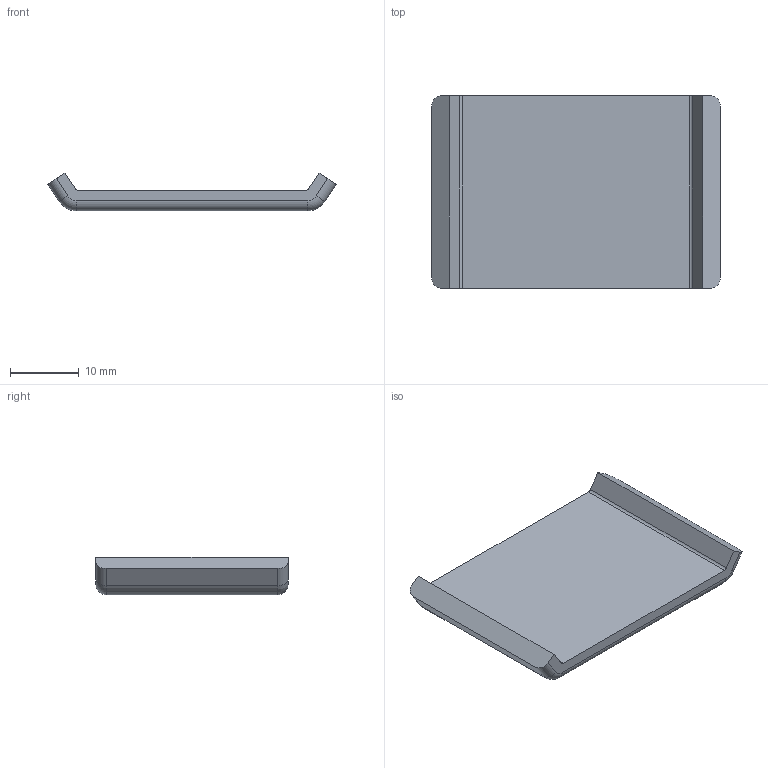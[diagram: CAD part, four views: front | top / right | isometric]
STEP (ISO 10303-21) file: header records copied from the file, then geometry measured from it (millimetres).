
FILE_DESCRIPTION (( 'STEP AP214' ), '1' );
FILE_NAME ('1.1035 Päätysuoja kulmalle 30.STEP', '2025-09-03T09:05:23', ( '' ), ( '' ), 'SwSTEP 2.0', 'SolidWorks 2025', '' );
FILE_SCHEMA (( 'AUTOMOTIVE_DESIGN' ));
Length unit declared in the file: millimetre
Products named in the file (1): 1.1035 Päätysuoja kulmalle 30
Bounding box: 42 x 28 x 5.5 mm (x, y, z)
Volume: 3528.1 mm3; surface area: 2801.7 mm2
Topology: 1 solids, 1 shells, 246 faces, 688 edges, 456 vertices
Faces by surface type: plane 147, bspline 85, cylinder 10, torus 4
Entity records: 10505 total; most frequent: CARTESIAN_POINT 4728, ORIENTED_EDGE 1376, DIRECTION 858, EDGE_CURVE 688, LINE 494, VECTOR 494, VERTEX_POINT 456, EDGE_LOOP 258
